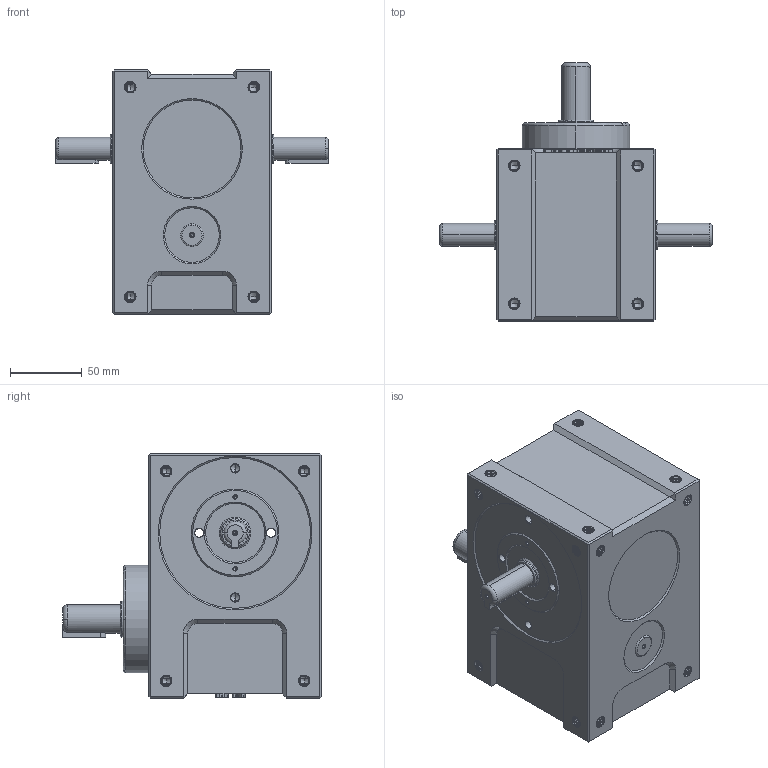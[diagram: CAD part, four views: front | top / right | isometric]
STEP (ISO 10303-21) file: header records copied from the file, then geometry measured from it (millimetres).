
FILE_DESCRIPTION (( 'STEP AP214' ), '1' );
FILE_NAME ('ER-RU60DS英锐凸轮分割器3D标准图纸(电话15062628977)AA.STEP', '2022-10-19T02:53:25', ( '微软用户' ), ( '微软中国' ), 'SwSTEP 2.0', 'SolidWorks 2017', '' );
FILE_SCHEMA (( 'AUTOMOTIVE_DESIGN' ));
Length unit declared in the file: millimetre
Products named in the file (1): ER-RU60DS英锐凸轮分割器3D标准图纸(电话15062628977)AA
Bounding box: 190 x 180 x 170 mm (x, y, z)
Volume: 2233703.5 mm3; surface area: 131304.3 mm2
Topology: 1 solids, 1 shells, 1784 faces, 4691 edges, 2950 vertices
Faces by surface type: cylinder 608, bspline 485, plane 388, cone 284, torus 19
Entity records: 171212 total; most frequent: CARTESIAN_POINT 134195, ORIENTED_EDGE 9242, DIRECTION 5315, EDGE_CURVE 4621, VERTEX_POINT 2950, EDGE_LOOP 1931, AXIS2_PLACEMENT_3D 1821, ADVANCED_FACE 1784
